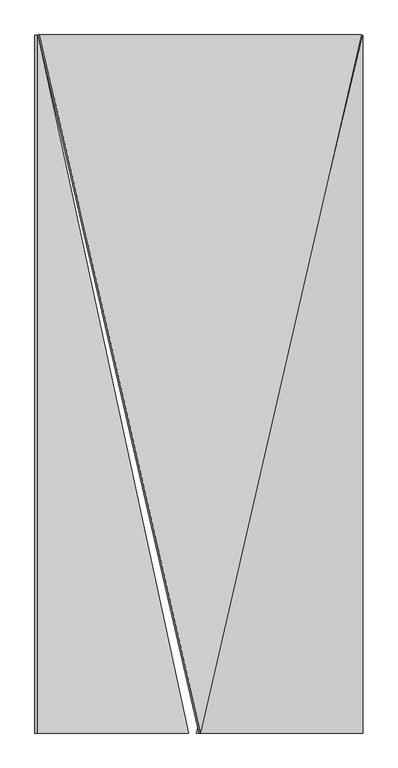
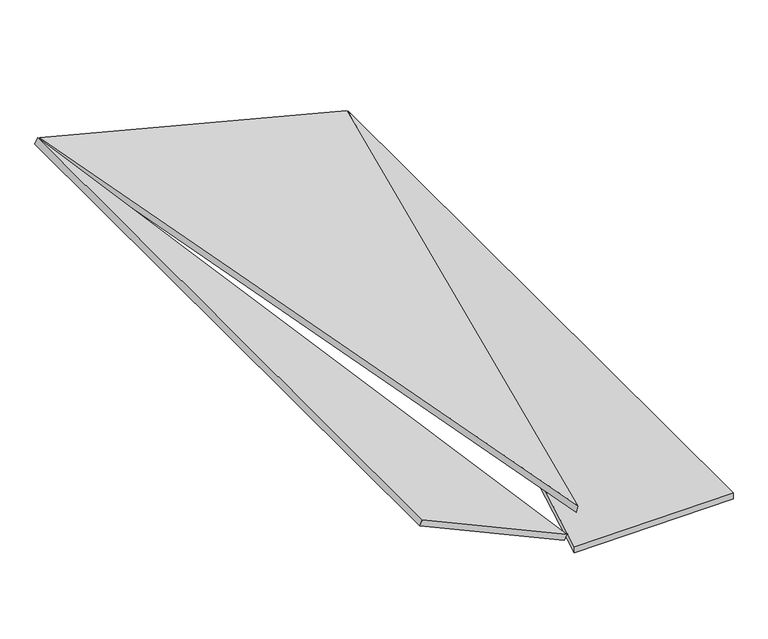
"""IFC4 building model written with IfcOpenShell, lengths in millimetres: proxy geometry, panel sufitowy 6 : panel sufitowy 6."""

from ifc_helpers import new_model, si_unit, frame, origin, place, context, project, spatial, polyline, outline, extrude, source, transform, mapped, element, save


def generic_models_cafb4e8f(model_context):
    return source(origin(), model_context, "Body", "SweptSolid", [
        extrude(outline(polyline([(-900.9098917, 0.0), (1235.4098448, 0.0), (1006.1909889, -962.7191946), (-900.9098917, 0.0)])), frame((529.0326252, -1457.4151922, 1047.1876511), z_axis=(0.2503800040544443, 0.0, 0.968147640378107), x_axis=(-0.22424286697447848, 0.9728062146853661, 0.0579931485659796)), (0.0, 0.0, 1.0), 20.0),
        extrude(outline(polyline([(-127.5, 0.0), (-622.5, 0.0), (-127.5, 2079.0), (-127.5, 0.0)])), frame((1347.1943102, -2335.0, 869.6817722), z_axis=(-0.008726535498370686, 0.0, 0.9999619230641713), x_axis=(0.9999619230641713, 0.0, 0.008726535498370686)), (0.0, 0.0, 1.0), 20.0),
        extrude(outline(polyline([(-127.5, 0.0), (-127.5, -2079.0), (-622.5, 0.0), (-127.5, 0.0)])), frame((125.8499862, -2335.0, 1174.3263315), z_axis=(0.4146932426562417, 0.0, 0.9099612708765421), x_axis=(-0.9099612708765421, 0.0, 0.4146932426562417)), (0.0, 0.0, 1.0), 20.0),
    ])


if __name__ == "__main__":
    model = new_model("IFC4")
    model_context = context("Model", 3, world=origin())
    ifc_project = project(units=[si_unit("LENGTHUNIT", "METRE", prefix="MILLI")], contexts=[model_context])
    site = spatial("IfcSite", under=ifc_project)
    building = spatial("IfcBuilding", under=site)
    placement = place(None, origin())
    generic_models_shape = generic_models_cafb4e8f(model_context)
    element("IfcBuildingElementProxy", 1, Name="panel sufitowy 6 : panel sufitowy 6", ObjectType="panel sufitowy 6 : panel sufitowy 6", at=placement, inside=building, context=model_context, shape_type="MappedRepresentation", body=[
        mapped(generic_models_shape, transform((0.0, 0.0, 0.0), x_axis=(1.0, 0.0, 0.0), y_axis=(0.0, 1.0, 0.0), z_axis=(0.0, 0.0, 1.0))),
    ])
    save(model, "model.ifc")
